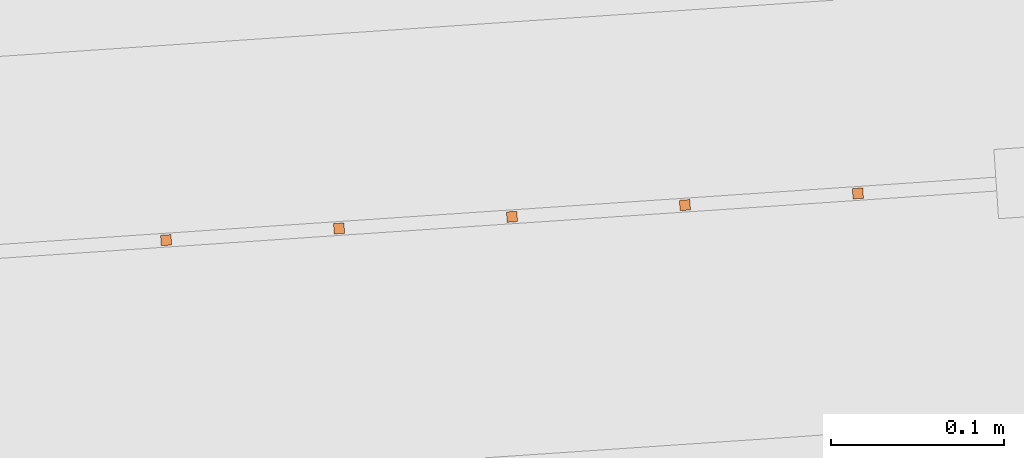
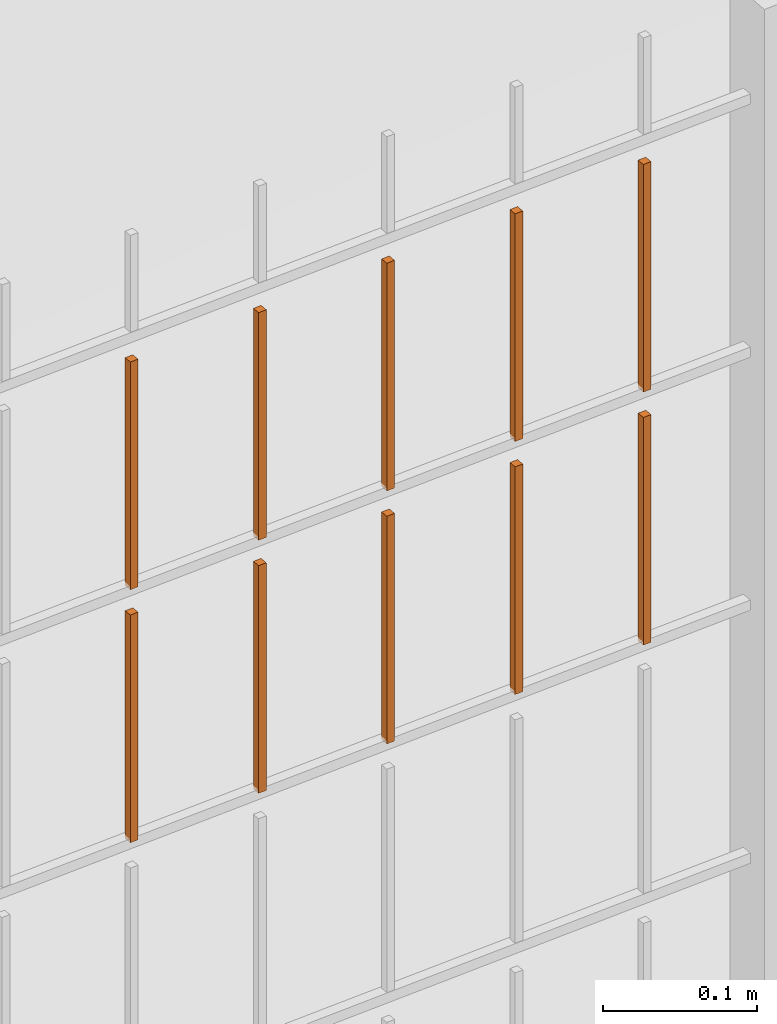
# One storey, part 174 of 1809: 10 proxies, 1 element without a shape of its own.
"""IFC2X3 building model written with IfcOpenShell, lengths in millimetres."""

from ifc_helpers import new_model, entity, si_unit, converted_unit, derived_unit, money_unit, direction, frame, origin_with_axes, place, context, subcontext, project, spatial, faceted_brep, source, transform, mapped, material, type_object, element, aggregate, save


model = new_model("IFC2X3")

# Units and contexts
model_context = context("Model", 3, precision=0.01, world=origin_with_axes(), true_north=direction((0.0, 1.0)))
body_context = subcontext(model_context, "Body", "Model", "MODEL_VIEW")
ifc_project = project(units=[si_unit("LENGTHUNIT", "METRE", prefix="MILLI"), si_unit("AREAUNIT", "SQUARE_METRE"), si_unit("VOLUMEUNIT", "CUBIC_METRE"), converted_unit("PLANEANGLEUNIT", "DEGREE", entity("IfcPlaneAngleMeasure", 0.0174532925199), si_unit("PLANEANGLEUNIT", "RADIAN"), dimensions=[0, 0, 0, 0, 0, 0, 0]), si_unit("SOLIDANGLEUNIT", "STERADIAN"), money_unit("EUR"), converted_unit("TIMEUNIT", "Year", entity("IfcTimeMeasure", 31556926.0), si_unit("TIMEUNIT", "SECOND"), dimensions=[0, 0, 1, 0, 0, 0, 0]), si_unit("MASSUNIT", "GRAM", prefix="KILO"), si_unit("THERMODYNAMICTEMPERATUREUNIT", "DEGREE_CELSIUS"), si_unit("LUMINOUSINTENSITYUNIT", "LUMEN"), si_unit("ENERGYUNIT", "JOULE", prefix="MEGA"), derived_unit("THERMALCONDUCTANCEUNIT", [(si_unit("POWERUNIT", "WATT"), 1), (si_unit("LENGTHUNIT", "METRE"), -1), (si_unit("THERMODYNAMICTEMPERATUREUNIT", "KELVIN"), -1)]), derived_unit("SPECIFICHEATCAPACITYUNIT", [(si_unit("ENERGYUNIT", "JOULE"), 1), (si_unit("MASSUNIT", "GRAM", prefix="KILO"), -1), (si_unit("THERMODYNAMICTEMPERATUREUNIT", "KELVIN"), -1)]), derived_unit("MASSDENSITYUNIT", [(si_unit("MASSUNIT", "GRAM", prefix="KILO"), 1), (si_unit("VOLUMEUNIT", "CUBIC_METRE"), -1)])], contexts=[model_context])

# Site, building, storey
site_placement = place(None, origin_with_axes())
site = spatial("IfcSite", under=ifc_project, at=site_placement, Name="Politse- ja Piirivalveameti ning Päästeameti ühishoone", CompositionType="ELEMENT")
building_placement = place(site_placement, origin_with_axes())
building = spatial("IfcBuilding", under=site, at=building_placement, Name="Politse- ja Piirivalveameti ning Päästeameti ühishoone", CompositionType="ELEMENT")
storey_placement = place(building_placement, origin_with_axes())
storey = spatial("IfcBuildingStorey", under=building, at=storey_placement, Name="Esimene korrus", CompositionType="ELEMENT", Elevation=0.0)

# Proxies
building_element_proxy_type_1 = type_object("IfcBuildingElementProxyType", Name="Railing Type", PredefinedType="NOTDEFINED")
proxy_1_placement = place(storey_placement, frame((89252.001212, -29183.4766571, 203.661247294), z_axis=(0.0, 0.0, 1.0), x_axis=(1.0, 0.0, 0.0)))
proxy_1 = element("IfcBuildingElementProxy", 1, at=proxy_1_placement, inside=storey, type_object=building_element_proxy_type_1, Name="PIIRDEAED")
ifc_material = material(Name="ET-03_Raud")
building_element_proxy_type_2 = type_object("IfcBuildingElementProxyType", Name="IfcBuildingElementProxy", PredefinedType="NOTDEFINED")
shared_shape_1 = source(origin_with_axes(), body_context, "Body", "Brep", [
    faceted_brep([(3.0, 3.0, -0.000752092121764), (-3.0, 3.0, -0.000752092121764), (-3.0, 3.0, 179.99926046), (3.0, 3.0, 179.99926046), (3.0, -3.0, 0.000752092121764), (-3.0, -3.0, 0.000752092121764), (-3.0, -3.0, 180.000764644), (3.0, -3.0, 180.000764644)], [[[0, 1, 2, 3]], [[0, 4, 5, 1]], [[1, 5, 6, 2]], [[3, 2, 6, 7]], [[4, 0, 3, 7]], [[5, 4, 7, 6]]]),
])
proxy_2_placement = place(proxy_1_placement, frame((-74955.8897157, -22360.7622386, 1808.40032212), z_axis=(0.0, 0.0, 1.0), x_axis=(1.0, 0.0, 0.0)))
proxy_2 = element("IfcBuildingElementProxy", 2, at=proxy_2_placement, type_object=building_element_proxy_type_2, material=ifc_material, Name="BALUSTER - 001", context=body_context, shape_type="MappedRepresentation", body=[
    mapped(shared_shape_1, transform((0.0, 0.0, 0.0), x_axis=(-0.0673926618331, 0.997726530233, 0.0), y_axis=(-0.997726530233, -0.0673926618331, 0.0), z_axis=(0.0, 0.0, 1.0))),
])
shared_shape_2 = source(origin_with_axes(), body_context, "Body", "Brep", [
    faceted_brep([(3.0, 3.0, -0.000752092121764), (-3.0, 3.0, -0.000752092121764), (-3.0, 3.0, 179.99926046), (3.0, 3.0, 179.99926046), (3.0, -3.0, 0.000752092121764), (-3.0, -3.0, 0.000752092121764), (-3.0, -3.0, 180.000764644), (3.0, -3.0, 180.000764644)], [[[0, 1, 2, 3]], [[0, 4, 5, 1]], [[1, 5, 6, 2]], [[3, 2, 6, 7]], [[4, 0, 3, 7]], [[5, 4, 7, 6]]]),
])
proxy_3_placement = place(proxy_1_placement, frame((-74756.3444096, -22347.2837062, 1808.4504616), z_axis=(0.0, 0.0, 1.0), x_axis=(1.0, 0.0, 0.0)))
proxy_3 = element("IfcBuildingElementProxy", 3, at=proxy_3_placement, type_object=building_element_proxy_type_2, material=ifc_material, Name="BALUSTER - 001", context=body_context, shape_type="MappedRepresentation", body=[
    mapped(shared_shape_2, transform((0.0, 0.0, 0.0), x_axis=(-0.0673926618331, 0.997726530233, 0.0), y_axis=(-0.997726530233, -0.0673926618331, 0.0), z_axis=(0.0, 0.0, 1.0))),
])
shared_shape_3 = source(origin_with_axes(), body_context, "Body", "Brep", [
    faceted_brep([(3.0, 3.0, -0.000752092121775), (-3.0, 3.0, -0.000752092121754), (-3.0, 3.0, 179.99926046), (3.0, 3.0, 179.99926046), (3.0, -3.0, 0.000752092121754), (-3.0, -3.0, 0.000752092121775), (-3.0, -3.0, 180.000764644), (3.0, -3.0, 180.000764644)], [[[0, 1, 2, 3]], [[0, 4, 5, 1]], [[1, 5, 6, 2]], [[3, 2, 6, 7]], [[4, 0, 3, 7]], [[5, 4, 7, 6]]]),
])
proxy_4_placement = place(proxy_1_placement, frame((-74856.1170627, -22354.0229724, 1808.42539186), z_axis=(0.0, 0.0, 1.0), x_axis=(1.0, 0.0, 0.0)))
proxy_4 = element("IfcBuildingElementProxy", 4, at=proxy_4_placement, type_object=building_element_proxy_type_2, material=ifc_material, Name="BALUSTER - 001", context=body_context, shape_type="MappedRepresentation", body=[
    mapped(shared_shape_3, transform((0.0, 0.0, 0.0), x_axis=(-0.0673926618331, 0.997726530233, 0.0), y_axis=(-0.997726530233, -0.0673926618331, 0.0), z_axis=(0.0, 0.0, 1.0))),
])
shared_shape_4 = source(origin_with_axes(), body_context, "Body", "Brep", [
    faceted_brep([(3.0, 3.0, -0.000752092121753), (-3.0, 3.0, -0.000752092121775), (-3.0, 3.0, 179.99926046), (3.0, 3.0, 179.99926046), (3.0, -3.0, 0.000752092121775), (-3.0, -3.0, 0.000752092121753), (-3.0, -3.0, 180.000764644), (3.0, -3.0, 180.000764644)], [[[0, 1, 2, 3]], [[0, 4, 5, 1]], [[1, 5, 6, 2]], [[3, 2, 6, 7]], [[4, 0, 3, 7]], [[5, 4, 7, 6]]]),
])
proxy_5_placement = place(proxy_1_placement, frame((-75055.6623687, -22367.5015048, 1608.37525239), z_axis=(0.0, 0.0, 1.0), x_axis=(1.0, 0.0, 0.0)))
proxy_5 = element("IfcBuildingElementProxy", 5, at=proxy_5_placement, type_object=building_element_proxy_type_2, material=ifc_material, Name="BALUSTER - 001", context=body_context, shape_type="MappedRepresentation", body=[
    mapped(shared_shape_4, transform((0.0, 0.0, 0.0), x_axis=(-0.0673926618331, 0.997726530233, 0.0), y_axis=(-0.997726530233, -0.0673926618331, 0.0), z_axis=(0.0, 0.0, 1.0))),
])
shared_shape_5 = source(origin_with_axes(), body_context, "Body", "Brep", [
    faceted_brep([(3.0, 3.0, -0.000752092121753), (-3.0, 3.0, -0.000752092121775), (-3.0, 3.0, 179.99926046), (3.0, 3.0, 179.99926046), (3.0, -3.0, 0.000752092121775), (-3.0, -3.0, 0.000752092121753), (-3.0, -3.0, 180.000764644), (3.0, -3.0, 180.000764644)], [[[0, 1, 2, 3]], [[0, 4, 5, 1]], [[1, 5, 6, 2]], [[3, 2, 6, 7]], [[4, 0, 3, 7]], [[5, 4, 7, 6]]]),
])
proxy_6_placement = place(proxy_1_placement, frame((-75055.6623687, -22367.5015048, 1808.37525239), z_axis=(0.0, 0.0, 1.0), x_axis=(1.0, 0.0, 0.0)))
proxy_6 = element("IfcBuildingElementProxy", 6, at=proxy_6_placement, type_object=building_element_proxy_type_2, material=ifc_material, Name="BALUSTER - 001", context=body_context, shape_type="MappedRepresentation", body=[
    mapped(shared_shape_5, transform((0.0, 0.0, 0.0), x_axis=(-0.0673926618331, 0.997726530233, 0.0), y_axis=(-0.997726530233, -0.0673926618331, 0.0), z_axis=(0.0, 0.0, 1.0))),
])
shared_shape_6 = source(origin_with_axes(), body_context, "Body", "Brep", [
    faceted_brep([(3.0, 3.0, -0.000752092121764), (-3.0, 3.0, -0.000752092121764), (-3.0, 3.0, 179.99926046), (3.0, 3.0, 179.99926046), (3.0, -3.0, 0.000752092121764), (-3.0, -3.0, 0.000752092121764), (-3.0, -3.0, 180.000764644), (3.0, -3.0, 180.000764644)], [[[0, 1, 2, 3]], [[0, 4, 5, 1]], [[1, 5, 6, 2]], [[3, 2, 6, 7]], [[4, 0, 3, 7]], [[5, 4, 7, 6]]]),
])
proxy_7_placement = place(proxy_1_placement, frame((-74756.3444096, -22347.2837062, 1608.4504616), z_axis=(0.0, 0.0, 1.0), x_axis=(1.0, 0.0, 0.0)))
proxy_7 = element("IfcBuildingElementProxy", 7, at=proxy_7_placement, type_object=building_element_proxy_type_2, material=ifc_material, Name="BALUSTER - 001", context=body_context, shape_type="MappedRepresentation", body=[
    mapped(shared_shape_6, transform((0.0, 0.0, 0.0), x_axis=(-0.0673926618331, 0.997726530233, 0.0), y_axis=(-0.997726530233, -0.0673926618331, 0.0), z_axis=(0.0, 0.0, 1.0))),
])
shared_shape_7 = source(origin_with_axes(), body_context, "Body", "Brep", [
    faceted_brep([(3.0, 3.0, -0.000752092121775), (-3.0, 3.0, -0.000752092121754), (-3.0, 3.0, 179.99926046), (3.0, 3.0, 179.99926046), (3.0, -3.0, 0.000752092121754), (-3.0, -3.0, 0.000752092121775), (-3.0, -3.0, 180.000764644), (3.0, -3.0, 180.000764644)], [[[0, 1, 2, 3]], [[0, 4, 5, 1]], [[1, 5, 6, 2]], [[3, 2, 6, 7]], [[4, 0, 3, 7]], [[5, 4, 7, 6]]]),
])
proxy_8_placement = place(proxy_1_placement, frame((-74856.1170627, -22354.0229724, 1608.42539186), z_axis=(0.0, 0.0, 1.0), x_axis=(1.0, 0.0, 0.0)))
proxy_8 = element("IfcBuildingElementProxy", 8, at=proxy_8_placement, type_object=building_element_proxy_type_2, material=ifc_material, Name="BALUSTER - 001", context=body_context, shape_type="MappedRepresentation", body=[
    mapped(shared_shape_7, transform((0.0, 0.0, 0.0), x_axis=(-0.0673926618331, 0.997726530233, 0.0), y_axis=(-0.997726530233, -0.0673926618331, 0.0), z_axis=(0.0, 0.0, 1.0))),
])
shared_shape_8 = source(origin_with_axes(), body_context, "Body", "Brep", [
    faceted_brep([(3.0, 3.0, -0.000752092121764), (-3.0, 3.0, -0.000752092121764), (-3.0, 3.0, 179.99926046), (3.0, 3.0, 179.99926046), (3.0, -3.0, 0.000752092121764), (-3.0, -3.0, 0.000752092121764), (-3.0, -3.0, 180.000764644), (3.0, -3.0, 180.000764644)], [[[0, 1, 2, 3]], [[0, 4, 5, 1]], [[1, 5, 6, 2]], [[3, 2, 6, 7]], [[4, 0, 3, 7]], [[5, 4, 7, 6]]]),
])
proxy_9_placement = place(proxy_1_placement, frame((-74955.8897157, -22360.7622386, 1608.40032212), z_axis=(0.0, 0.0, 1.0), x_axis=(1.0, 0.0, 0.0)))
proxy_9 = element("IfcBuildingElementProxy", 9, at=proxy_9_placement, type_object=building_element_proxy_type_2, material=ifc_material, Name="BALUSTER - 001", context=body_context, shape_type="MappedRepresentation", body=[
    mapped(shared_shape_8, transform((0.0, 0.0, 0.0), x_axis=(-0.0673926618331, 0.997726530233, 0.0), y_axis=(-0.997726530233, -0.0673926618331, 0.0), z_axis=(0.0, 0.0, 1.0))),
])
shared_shape_9 = source(origin_with_axes(), body_context, "Body", "Brep", [
    faceted_brep([(3.0, 3.0, -0.000752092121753), (-3.0, 3.0, -0.000752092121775), (-3.0, 3.0, 179.99926046), (3.0, 3.0, 179.99926046), (3.0, -3.0, 0.000752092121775), (-3.0, -3.0, 0.000752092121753), (-3.0, -3.0, 180.000764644), (3.0, -3.0, 180.000764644)], [[[0, 1, 2, 3]], [[0, 4, 5, 1]], [[1, 5, 6, 2]], [[3, 2, 6, 7]], [[4, 0, 3, 7]], [[5, 4, 7, 6]]]),
])
proxy_10_placement = place(proxy_1_placement, frame((-75155.4350217, -22374.2407709, 1808.35018265), z_axis=(0.0, 0.0, 1.0), x_axis=(1.0, 0.0, 0.0)))
proxy_10 = element("IfcBuildingElementProxy", 10, at=proxy_10_placement, type_object=building_element_proxy_type_2, material=ifc_material, Name="BALUSTER - 001", context=body_context, shape_type="MappedRepresentation", body=[
    mapped(shared_shape_9, transform((0.0, 0.0, 0.0), x_axis=(-0.0673926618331, 0.997726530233, 0.0), y_axis=(-0.997726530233, -0.0673926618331, 0.0), z_axis=(0.0, 0.0, 1.0))),
])
shared_shape_10 = source(origin_with_axes(), body_context, "Body", "Brep", [
    faceted_brep([(3.0, 3.0, -0.000752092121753), (-3.0, 3.0, -0.000752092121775), (-3.0, 3.0, 179.99926046), (3.0, 3.0, 179.99926046), (3.0, -3.0, 0.000752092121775), (-3.0, -3.0, 0.000752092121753), (-3.0, -3.0, 180.000764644), (3.0, -3.0, 180.000764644)], [[[0, 1, 2, 3]], [[0, 4, 5, 1]], [[1, 5, 6, 2]], [[3, 2, 6, 7]], [[4, 0, 3, 7]], [[5, 4, 7, 6]]]),
])
proxy_11_placement = place(proxy_1_placement, frame((-75155.4350217, -22374.2407709, 1608.35018265), z_axis=(0.0, 0.0, 1.0), x_axis=(1.0, 0.0, 0.0)))
proxy_11 = element("IfcBuildingElementProxy", 11, at=proxy_11_placement, type_object=building_element_proxy_type_2, material=ifc_material, Name="BALUSTER - 001", context=body_context, shape_type="MappedRepresentation", body=[
    mapped(shared_shape_10, transform((0.0, 0.0, 0.0), x_axis=(-0.0673926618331, 0.997726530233, 0.0), y_axis=(-0.997726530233, -0.0673926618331, 0.0), z_axis=(0.0, 0.0, 1.0))),
])
aggregate(proxy_1, [proxy_7, proxy_8, proxy_9, proxy_5, proxy_11, proxy_3, proxy_4, proxy_2, proxy_6, proxy_10])

save(model, "model.ifc")
